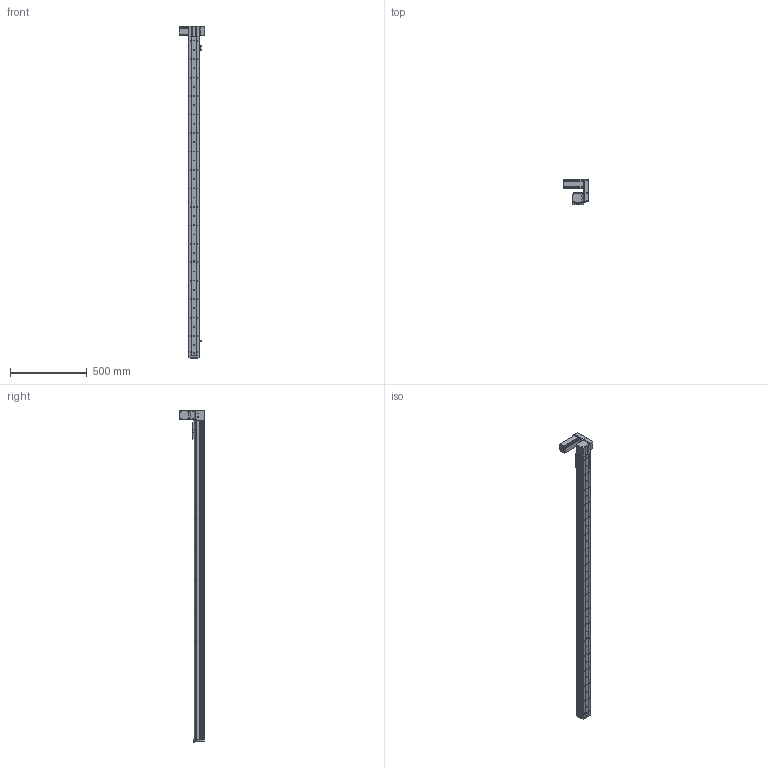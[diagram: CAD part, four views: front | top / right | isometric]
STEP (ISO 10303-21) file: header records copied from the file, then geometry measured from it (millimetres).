
FILE_DESCRIPTION (( 'STEP AP214' ), '1' );
FILE_NAME ('KSD68BS-S1900-MLU-CR.STEP', '2019-08-27T08:54:36', ( '微软用户' ), ( '微软中国' ), 'SwSTEP 2.0', 'SolidWorks 2014', '' );
FILE_SCHEMA (( 'AUTOMOTIVE_DESIGN' ));
Length unit declared in the file: millimetre
Products named in the file (14): 68宽单导轨全封闭丝杆传动安装板1防护罩; KSD68BS 1900行程侧板全封闭; 68宽单导轨全封闭同步带端板; 68单导轨全封闭同步带电机座左; 68单导轨全封闭同步带安装板; 悵誘欶奻狟殏; 68遵裔啣揤啣1; 68宽马达安装板连板上折同步带; 感应片68宽全封闭; U倰嫖萇EEㄜSX672; 台达ECMA－C20604AS伺服电机（400W); KSD68BS 1900行程底板全封闭; KSD68BS 1900行程盖板全封闭; KSD68BS-S1900-MLU-CR
Assembly tree (17 placements, depth 2):
  KSD68BS-S1900-MLU-CR
    KSD68BS 1900行程底板全封闭
    台达ECMA－C20604AS伺服电机（400W)
    U倰嫖萇EEㄜSX672  x3
    感应片68宽全封闭
    68宽马达安装板连板上折同步带
    悵誘欶奻狟殏
    68单导轨全封闭同步带安装板
    68单导轨全封闭同步带电机座左
    68宽单导轨全封闭同步带端板
    KSD68BS 1900行程侧板全封闭  x2
    68宽单导轨全封闭丝杆传动安装板1防护罩
    68遵裔啣揤啣1  x2
    KSD68BS 1900行程盖板全封闭
Bounding box: 167.2 x 159.5 x 2158.1 mm (x, y, z)
Volume: 3749105.7 mm3; surface area: 1543839.2 mm2
Topology: 18 solids, 18 shells, 1651 faces, 4781 edges, 3042 vertices
Faces by surface type: cylinder 822, plane 629, cone 200
Entity records: 54575 total; most frequent: CARTESIAN_POINT 9577, DIRECTION 8096, ORIENTED_EDGE 7750, EDGE_CURVE 3875, AXIS2_PLACEMENT_3D 2965, VERTEX_POINT 2540, VECTOR 2166, LINE 2166
